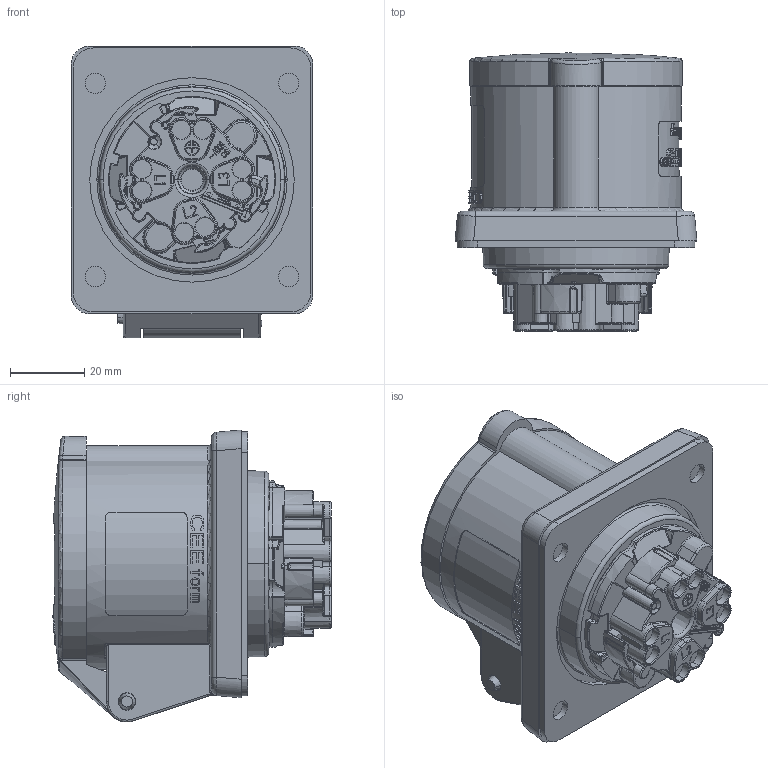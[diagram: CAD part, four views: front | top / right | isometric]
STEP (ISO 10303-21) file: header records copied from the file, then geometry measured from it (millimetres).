
FILE_DESCRIPTION((''),'2;1');
FILE_NAME('1113176_ASM_SW0001','2017-09-28T',('gisse'),('MENNEKES'),'PRO/ENGINEER BY PARAMETRIC TECHNOLOGY CORPORATION, 2015440','PRO/ENGINEER BY PARAMETRIC TECHNOLOGY CORPORATION, 2015440','');
FILE_SCHEMA(('AUTOMOTIVE_DESIGN { 1 0 10303 214 1 1 1 1 }'));
Products named in the file (1): 1113176_ASM_SW0001
Bounding box: 65 x 74.81 x 78.5 mm (x, y, z)
Volume: 186808.9 mm3; surface area: 30887.1 mm2
Topology: 1 solids, 1 shells, 2405 faces, 6431 edges, 4106 vertices
Faces by surface type: plane 1505, cylinder 353, bspline 275, torus 158, cone 79, sphere 35
Entity records: 120483 total; most frequent: CARTESIAN_POINT 28635, ORIENTED_EDGE 12838, DIRECTION 10382, PRESENTATION_STYLE_ASSIGNMENT 7713, STYLED_ITEM 6420, CURVE_STYLE 6419, EDGE_CURVE 6419, VERTEX_POINT 4105
